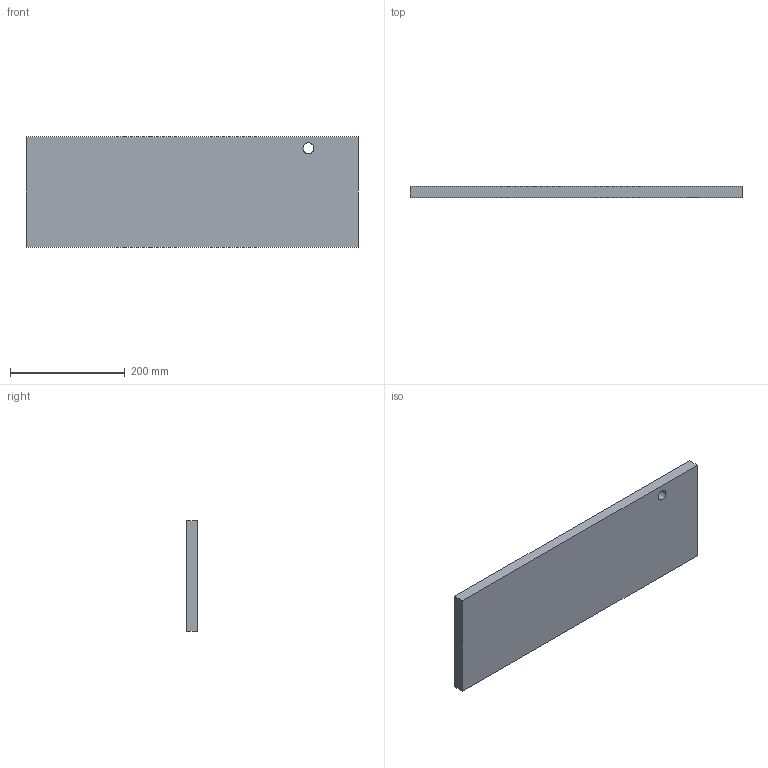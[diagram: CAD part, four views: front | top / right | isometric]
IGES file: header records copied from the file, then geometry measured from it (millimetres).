
Start section:  PTC IGES file: l5_side_drwr.igs
Global section: file name: l5_side_drwr.igs; native system: Creo Parametric by Parametric Technology Corporation; preprocessor: 2014310; author: apappas; organization: Unknown; date: 20150316.094202; units: inch
Bounding box: 579.44 x 19.05 x 193.68 mm (x, y, z)
Volume: 2131939.6 mm3; surface area: 255098.6 mm2
Topology: 1 solids, 1 shells, 26 faces, 54 edges, 36 vertices
Faces by surface type: bspline 26
